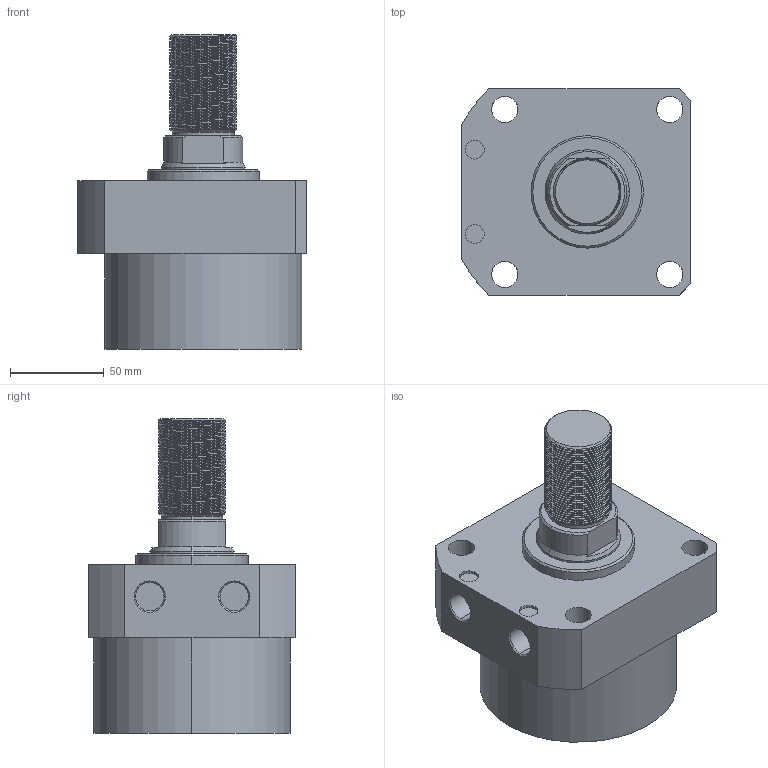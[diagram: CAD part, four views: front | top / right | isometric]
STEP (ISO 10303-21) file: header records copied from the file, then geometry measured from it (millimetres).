
FILE_DESCRIPTION (( 'STEP AP214' ), '1' );
FILE_NAME ('CLLR-105CT-030.STEP', '2020-01-09T07:30:55', ( 'Windows' ), ( 'Microsoft' ), 'SwSTEP 2.0', 'SolidWorks 2015', '' );
FILE_SCHEMA (( 'AUTOMOTIVE_DESIGN' ));
Length unit declared in the file: millimetre
Products named in the file (1): CLLR-105CT-030
Bounding box: 122 x 110 x 168 mm (x, y, z)
Volume: 1014699.2 mm3; surface area: 80941 mm2
Topology: 1 solids, 1 shells, 135 faces, 362 edges, 237 vertices
Faces by surface type: cylinder 97, plane 20, cone 16, bspline 2
Entity records: 7893 total; most frequent: CARTESIAN_POINT 4834, ORIENTED_EDGE 724, DIRECTION 556, EDGE_CURVE 362, VERTEX_POINT 237, AXIS2_PLACEMENT_3D 211, EDGE_LOOP 151, FACE_OUTER_BOUND 135
